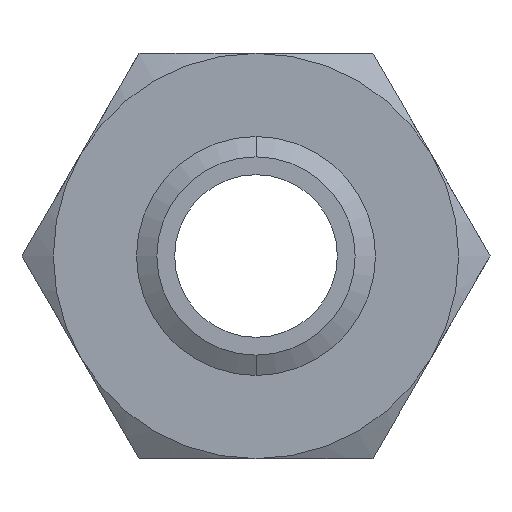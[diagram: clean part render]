
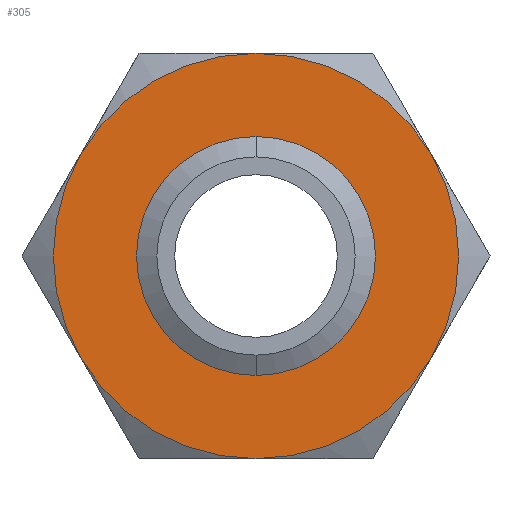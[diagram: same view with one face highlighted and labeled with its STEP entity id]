
A CAD part, front view. The second image highlights one B-rep face of the part: STEP entity #305.
In plain terms, the highlighted planar face has unit normal (0, -1, 0).
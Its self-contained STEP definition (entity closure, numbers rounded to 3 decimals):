
#36 = VERTEX_POINT ( 'NONE', #738 ) ;
#38 = VERTEX_POINT ( 'NONE', #730 ) ;
#42 = EDGE_CURVE ( 'NONE', #36, #38, #729, .T. ) ;
#191 = EDGE_CURVE ( 'NONE', #276, #193, #1064, .T. ) ;
#193 = VERTEX_POINT ( 'NONE', #1065 ) ;
#194 = ORIENTED_EDGE ( 'NONE', *, *, #191, .F. ) ;
#195 = ORIENTED_EDGE ( 'NONE', *, *, #196, .F. ) ;
#196 = EDGE_CURVE ( 'NONE', #193, #197, #1058, .T. ) ;
#197 = VERTEX_POINT ( 'NONE', #1059 ) ;
#198 = EDGE_CURVE ( 'NONE', #197, #268, #1053, .T. ) ;
#201 = VERTEX_POINT ( 'NONE', #1047 ) ;
#220 = ORIENTED_EDGE ( 'NONE', *, *, #42, .F. ) ;
#221 = EDGE_CURVE ( 'NONE', #38, #36, #1117, .T. ) ;
#222 = ORIENTED_EDGE ( 'NONE', *, *, #221, .F. ) ;
#229 = EDGE_CURVE ( 'NONE', #270, #276, #1169, .T. ) ;
#265 = ORIENTED_EDGE ( 'NONE', *, *, #198, .F. ) ;
#268 = VERTEX_POINT ( 'NONE', #1205 ) ;
#269 = EDGE_CURVE ( 'NONE', #268, #201, #1203, .T. ) ;
#270 = VERTEX_POINT ( 'NONE', #1204 ) ;
#271 = ORIENTED_EDGE ( 'NONE', *, *, #269, .F. ) ;
#272 = EDGE_LOOP ( 'NONE', ( #220, #222 ) ) ;
#274 = ORIENTED_EDGE ( 'NONE', *, *, #229, .F. ) ;
#276 = VERTEX_POINT ( 'NONE', #1258 ) ;
#305 = ADVANCED_FACE ( 'NONE', ( #1270, #1269 ), #1268, .F. ) ;
#306 = ORIENTED_EDGE ( 'NONE', *, *, #308, .F. ) ;
#307 = EDGE_LOOP ( 'NONE', ( #306, #271, #265, #195, #194, #274 ) ) ;
#308 = EDGE_CURVE ( 'NONE', #201, #270, #1266, .T. ) ;
#725 = DIRECTION ( 'NONE',  ( 0., 0., -1. ) ) ;
#726 = DIRECTION ( 'NONE',  ( 0., -1., 0. ) ) ;
#727 = CARTESIAN_POINT ( 'NONE',  ( 0., 0., 0. ) ) ;
#728 = AXIS2_PLACEMENT_3D ( 'NONE', #727, #726, #725 ) ;
#729 = CIRCLE ( 'NONE', #728, 23.237 ) ;
#730 = CARTESIAN_POINT ( 'NONE',  ( 0., 0., 23.237 ) ) ;
#738 = CARTESIAN_POINT ( 'NONE',  ( 0., 0., -23.237 ) ) ;
#1047 = CARTESIAN_POINT ( 'NONE',  ( 0., 0., 47.5 ) ) ;
#1049 = DIRECTION ( 'NONE',  ( 0., 0., 1. ) ) ;
#1050 = DIRECTION ( 'NONE',  ( 0., 1., 0. ) ) ;
#1051 = CARTESIAN_POINT ( 'NONE',  ( 0., 0., 0. ) ) ;
#1052 = AXIS2_PLACEMENT_3D ( 'NONE', #1051, #1050, #1049 ) ;
#1053 = CIRCLE ( 'NONE', #1052, 47.5 ) ;
#1054 = DIRECTION ( 'NONE',  ( 0., 0., 1. ) ) ;
#1055 = DIRECTION ( 'NONE',  ( 0., 1., 0. ) ) ;
#1056 = CARTESIAN_POINT ( 'NONE',  ( 0., 0., 0. ) ) ;
#1057 = AXIS2_PLACEMENT_3D ( 'NONE', #1056, #1055, #1054 ) ;
#1058 = CIRCLE ( 'NONE', #1057, 47.5 ) ;
#1059 = CARTESIAN_POINT ( 'NONE',  ( -41.136, 0., -23.75 ) ) ;
#1060 = DIRECTION ( 'NONE',  ( 0., 0., 1. ) ) ;
#1061 = DIRECTION ( 'NONE',  ( 0., 1., 0. ) ) ;
#1062 = CARTESIAN_POINT ( 'NONE',  ( 0., 0., 0. ) ) ;
#1063 = AXIS2_PLACEMENT_3D ( 'NONE', #1062, #1061, #1060 ) ;
#1064 = CIRCLE ( 'NONE', #1063, 47.5 ) ;
#1065 = CARTESIAN_POINT ( 'NONE',  ( 0., 0., -47.5 ) ) ;
#1114 = DIRECTION ( 'NONE',  ( 0., 0., -1. ) ) ;
#1115 = DIRECTION ( 'NONE',  ( 0., -1., 0. ) ) ;
#1116 = AXIS2_PLACEMENT_3D ( 'NONE', #1121, #1115, #1114 ) ;
#1117 = CIRCLE ( 'NONE', #1116, 23.237 ) ;
#1121 = CARTESIAN_POINT ( 'NONE',  ( 0., 0., 0. ) ) ;
#1165 = DIRECTION ( 'NONE',  ( 0., 0., 1. ) ) ;
#1166 = DIRECTION ( 'NONE',  ( 0., 1., 0. ) ) ;
#1167 = CARTESIAN_POINT ( 'NONE',  ( 0., 0., 0. ) ) ;
#1168 = AXIS2_PLACEMENT_3D ( 'NONE', #1167, #1166, #1165 ) ;
#1169 = CIRCLE ( 'NONE', #1168, 47.5 ) ;
#1202 = AXIS2_PLACEMENT_3D ( 'NONE', #1263, #1262, #1261 ) ;
#1203 = CIRCLE ( 'NONE', #1202, 47.5 ) ;
#1204 = CARTESIAN_POINT ( 'NONE',  ( 41.136, 0., 23.75 ) ) ;
#1205 = CARTESIAN_POINT ( 'NONE',  ( -41.136, 0., 23.75 ) ) ;
#1258 = CARTESIAN_POINT ( 'NONE',  ( 41.136, 0., -23.75 ) ) ;
#1261 = DIRECTION ( 'NONE',  ( 0., 0., 1. ) ) ;
#1262 = DIRECTION ( 'NONE',  ( 0., 1., 0. ) ) ;
#1263 = CARTESIAN_POINT ( 'NONE',  ( 0., 0., 0. ) ) ;
#1264 = DIRECTION ( 'NONE',  ( 0., 1., 0. ) ) ;
#1265 = CARTESIAN_POINT ( 'NONE',  ( 27.424, 0., -47.5 ) ) ;
#1266 = CIRCLE ( 'NONE', #1327, 47.5 ) ;
#1267 = AXIS2_PLACEMENT_3D ( 'NONE', #1265, #1264, #1328 ) ;
#1268 = PLANE ( 'NONE',  #1267 ) ;
#1269 = FACE_BOUND ( 'NONE', #272, .T. ) ;
#1270 = FACE_OUTER_BOUND ( 'NONE', #307, .T. ) ;
#1324 = DIRECTION ( 'NONE',  ( 0., 0., 1. ) ) ;
#1325 = DIRECTION ( 'NONE',  ( 0., 1., 0. ) ) ;
#1326 = CARTESIAN_POINT ( 'NONE',  ( 0., 0., 0. ) ) ;
#1327 = AXIS2_PLACEMENT_3D ( 'NONE', #1326, #1325, #1324 ) ;
#1328 = DIRECTION ( 'NONE',  ( 0., 0., 1. ) ) ;
